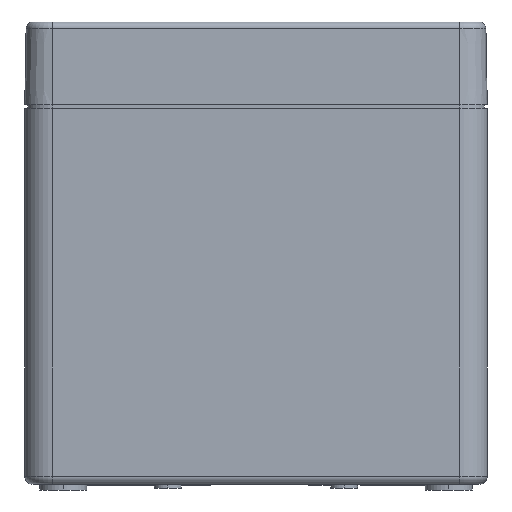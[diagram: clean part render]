
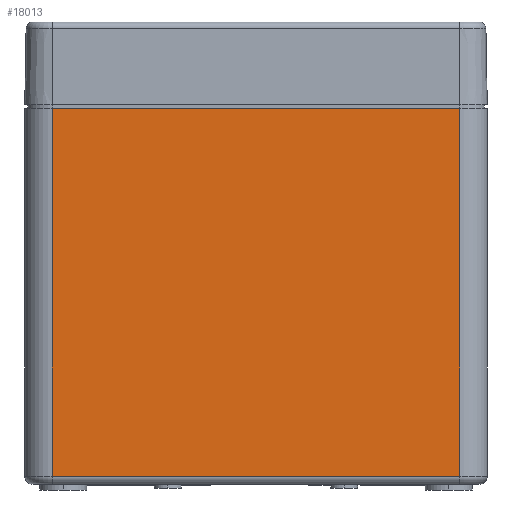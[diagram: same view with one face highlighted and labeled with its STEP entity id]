
A CAD part, left-side view. The second image highlights one B-rep face of the part: STEP entity #18013.
In plain terms, the highlighted planar face has unit normal (-1, 0, 0).
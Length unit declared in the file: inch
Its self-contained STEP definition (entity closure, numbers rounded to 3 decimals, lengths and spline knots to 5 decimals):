
#656 = PLANE ( 'NONE',  #6271 ) ;
#1760 = LINE ( 'NONE', #21752, #3832 ) ;
#2005 = VERTEX_POINT ( 'NONE', #43841 ) ;
#3346 = CARTESIAN_POINT ( 'NONE',  ( -1.61417, 1.45669, -2.69685 ) ) ;
#3832 = VECTOR ( 'NONE', #41372, 39.37008 ) ;
#6271 = AXIS2_PLACEMENT_3D ( 'NONE', #20648, #51737, #16402 ) ;
#7005 = DIRECTION ( 'NONE',  ( 0., -1., 0. ) ) ;
#8007 = CARTESIAN_POINT ( 'NONE',  ( -1.61417, -1.45669, -2.69685 ) ) ;
#8480 = LINE ( 'NONE', #23571, #60703 ) ;
#13299 = VERTEX_POINT ( 'NONE', #22428 ) ;
#15302 = ORIENTED_EDGE ( 'NONE', *, *, #18902, .F. ) ;
#15725 = VERTEX_POINT ( 'NONE', #8007 ) ;
#15830 = CARTESIAN_POINT ( 'NONE',  ( -1.61417, 1.45669, -2.69685 ) ) ;
#16402 = DIRECTION ( 'NONE',  ( 0., 0., -1. ) ) ;
#18013 = ADVANCED_FACE ( 'NONE', ( #46166 ), #656, .F. ) ;
#18902 = EDGE_CURVE ( 'NONE', #2005, #57204, #19751, .T. ) ;
#19260 = ORIENTED_EDGE ( 'NONE', *, *, #20449, .T. ) ;
#19751 = LINE ( 'NONE', #15830, #20020 ) ;
#20020 = VECTOR ( 'NONE', #55743, 39.37008 ) ;
#20449 = EDGE_CURVE ( 'NONE', #15725, #13299, #8480, .T. ) ;
#20648 = CARTESIAN_POINT ( 'NONE',  ( -1.61417, 1.45669, -2.69685 ) ) ;
#21752 = CARTESIAN_POINT ( 'NONE',  ( -1.61417, 1.45669, -0.06693 ) ) ;
#22428 = CARTESIAN_POINT ( 'NONE',  ( -1.61417, -1.45669, -0.06693 ) ) ;
#23571 = CARTESIAN_POINT ( 'NONE',  ( -1.61417, -1.45669, -2.69685 ) ) ;
#29106 = ORIENTED_EDGE ( 'NONE', *, *, #37640, .F. ) ;
#37640 = EDGE_CURVE ( 'NONE', #57204, #13299, #1760, .T. ) ;
#38084 = ORIENTED_EDGE ( 'NONE', *, *, #45522, .T. ) ;
#41372 = DIRECTION ( 'NONE',  ( 0., -1., 0. ) ) ;
#43021 = VECTOR ( 'NONE', #7005, 39.37008 ) ;
#43501 = DIRECTION ( 'NONE',  ( 0., 0., 1. ) ) ;
#43841 = CARTESIAN_POINT ( 'NONE',  ( -1.61417, 1.45669, -2.69685 ) ) ;
#45075 = EDGE_LOOP ( 'NONE', ( #29106, #15302, #38084, #19260 ) ) ;
#45522 = EDGE_CURVE ( 'NONE', #2005, #15725, #63288, .T. ) ;
#46166 = FACE_OUTER_BOUND ( 'NONE', #45075, .T. ) ;
#51737 = DIRECTION ( 'NONE',  ( 1., 0., 0. ) ) ;
#53211 = CARTESIAN_POINT ( 'NONE',  ( -1.61417, 1.45669, -0.06693 ) ) ;
#55743 = DIRECTION ( 'NONE',  ( 0., 0., 1. ) ) ;
#57204 = VERTEX_POINT ( 'NONE', #53211 ) ;
#60703 = VECTOR ( 'NONE', #43501, 39.37008 ) ;
#63288 = LINE ( 'NONE', #3346, #43021 ) ;
